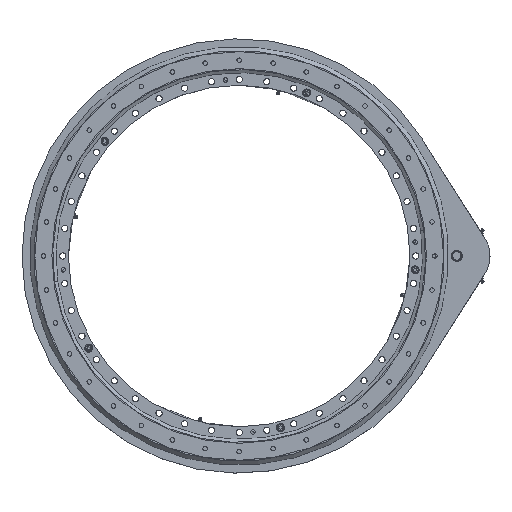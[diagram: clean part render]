
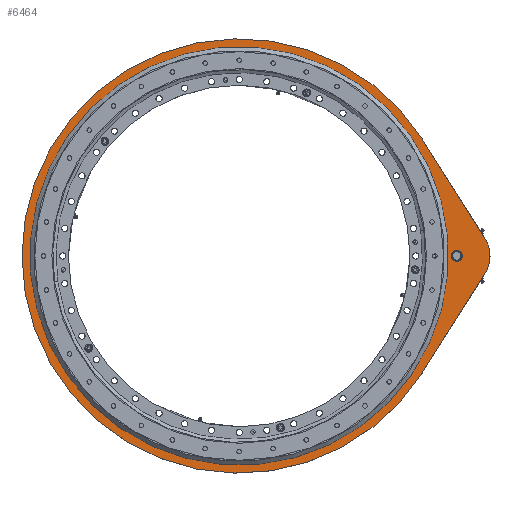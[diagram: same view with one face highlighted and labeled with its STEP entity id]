
A CAD part, top view. The second image highlights one B-rep face of the part: STEP entity #6464.
In plain terms, the highlighted planar face has unit normal (0, 0, 1).
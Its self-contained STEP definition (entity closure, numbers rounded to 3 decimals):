
#211 = CARTESIAN_POINT ( 'NONE',  ( -42.93, 85.521, 797.5 ) ) ;
#457 = CIRCLE ( 'NONE', #10847, 491. ) ;
#465 = FACE_BOUND ( 'NONE', #13850, .T. ) ;
#1192 = CARTESIAN_POINT ( 'NONE',  ( 438.57, 85.521, 797.5 ) ) ;
#1446 = EDGE_LOOP ( 'NONE', ( #23173, #20785, #14064, #2292, #8651 ) ) ;
#1485 = VERTEX_POINT ( 'NONE', #7597 ) ;
#1990 = CARTESIAN_POINT ( 'NONE',  ( 449.07, 85.521, 797.5 ) ) ;
#2074 = ORIENTED_EDGE ( 'NONE', *, *, #20586, .F. ) ;
#2292 = ORIENTED_EDGE ( 'NONE', *, *, #25367, .T. ) ;
#2764 = DIRECTION ( 'NONE',  ( 0., 0., 1. ) ) ;
#2999 = CARTESIAN_POINT ( 'NONE',  ( 512.485, 45.476, 797.5 ) ) ;
#3175 = AXIS2_PLACEMENT_3D ( 'NONE', #27797, #17042, #8562 ) ;
#3456 = CARTESIAN_POINT ( 'NONE',  ( 372.225, -176.639, 797.5 ) ) ;
#4000 = EDGE_CURVE ( 'NONE', #15615, #23674, #17663, .T. ) ;
#4219 = EDGE_LOOP ( 'NONE', ( #13442, #2074 ) ) ;
#5425 = DIRECTION ( 'NONE',  ( 1., 0., 0. ) ) ;
#6464 = ADVANCED_FACE ( 'NONE', ( #465, #17569, #17844 ), #24622, .T. ) ;
#6511 = CARTESIAN_POINT ( 'NONE',  ( 372.225, 347.681, 797.5 ) ) ;
#6593 = AXIS2_PLACEMENT_3D ( 'NONE', #11486, #20161, #15609 ) ;
#7277 = EDGE_CURVE ( 'NONE', #23674, #26113, #23058, .T. ) ;
#7316 = VERTEX_POINT ( 'NONE', #1192 ) ;
#7433 = AXIS2_PLACEMENT_3D ( 'NONE', #10271, #18906, #25393 ) ;
#7597 = CARTESIAN_POINT ( 'NONE',  ( 372.225, 347.681, 797.5 ) ) ;
#7643 = VERTEX_POINT ( 'NONE', #24960 ) ;
#8347 = DIRECTION ( 'NONE',  ( 0., 0., -1. ) ) ;
#8355 = DIRECTION ( 'NONE',  ( -0.534, 0.846, 0. ) ) ;
#8562 = DIRECTION ( 'NONE',  ( -1., 0., 0. ) ) ;
#8651 = ORIENTED_EDGE ( 'NONE', *, *, #10001, .T. ) ;
#8727 = ORIENTED_EDGE ( 'NONE', *, *, #27495, .T. ) ;
#9325 = CARTESIAN_POINT ( 'NONE',  ( 426.07, 85.521, 797.5 ) ) ;
#9538 = AXIS2_PLACEMENT_3D ( 'NONE', #24444, #26877, #22587 ) ;
#10001 = EDGE_CURVE ( 'NONE', #27408, #1485, #25735, .T. ) ;
#10271 = CARTESIAN_POINT ( 'NONE',  ( 449.07, 85.521, 797.5 ) ) ;
#10375 = DIRECTION ( 'NONE',  ( 0.534, 0.846, 0. ) ) ;
#10847 = AXIS2_PLACEMENT_3D ( 'NONE', #15348, #22789, #16601 ) ;
#11079 = VECTOR ( 'NONE', #8355, 1000. ) ;
#11486 = CARTESIAN_POINT ( 'NONE',  ( -42.93, 85.521, 797.5 ) ) ;
#11614 = VECTOR ( 'NONE', #10375, 1000. ) ;
#13442 = ORIENTED_EDGE ( 'NONE', *, *, #19439, .F. ) ;
#13850 = EDGE_LOOP ( 'NONE', ( #8727, #21324 ) ) ;
#14064 = ORIENTED_EDGE ( 'NONE', *, *, #7277, .T. ) ;
#14334 = DIRECTION ( 'NONE',  ( 0., 0., 1. ) ) ;
#15348 = CARTESIAN_POINT ( 'NONE',  ( -42.93, 85.521, 797.5 ) ) ;
#15483 = CARTESIAN_POINT ( 'NONE',  ( -533.93, 85.521, 797.5 ) ) ;
#15596 = CIRCLE ( 'NONE', #7433, 75. ) ;
#15609 = DIRECTION ( 'NONE',  ( 1., 0., 0. ) ) ;
#15615 = VERTEX_POINT ( 'NONE', #15483 ) ;
#15685 = AXIS2_PLACEMENT_3D ( 'NONE', #211, #2764, #23779 ) ;
#16363 = CARTESIAN_POINT ( 'NONE',  ( 512.485, 125.566, 797.5 ) ) ;
#16568 = CARTESIAN_POINT ( 'NONE',  ( -511.93, 85.521, 797.5 ) ) ;
#16601 = DIRECTION ( 'NONE',  ( 1., 0., 0. ) ) ;
#17042 = DIRECTION ( 'NONE',  ( 0., 0., -1. ) ) ;
#17143 = AXIS2_PLACEMENT_3D ( 'NONE', #27350, #14334, #5425 ) ;
#17454 = CIRCLE ( 'NONE', #15685, 469. ) ;
#17569 = FACE_OUTER_BOUND ( 'NONE', #1446, .T. ) ;
#17582 = CIRCLE ( 'NONE', #17143, 469. ) ;
#17663 = CIRCLE ( 'NONE', #9538, 491. ) ;
#17844 = FACE_BOUND ( 'NONE', #4219, .T. ) ;
#18032 = AXIS2_PLACEMENT_3D ( 'NONE', #1990, #8347, #23304 ) ;
#18906 = DIRECTION ( 'NONE',  ( 0., 0., 1. ) ) ;
#19439 = EDGE_CURVE ( 'NONE', #20953, #28093, #17582, .T. ) ;
#20161 = DIRECTION ( 'NONE',  ( 0., 0., 1. ) ) ;
#20586 = EDGE_CURVE ( 'NONE', #28093, #20953, #17454, .T. ) ;
#20785 = ORIENTED_EDGE ( 'NONE', *, *, #4000, .T. ) ;
#20953 = VERTEX_POINT ( 'NONE', #9325 ) ;
#21324 = ORIENTED_EDGE ( 'NONE', *, *, #27273, .T. ) ;
#22587 = DIRECTION ( 'NONE',  ( 1., 0., 0. ) ) ;
#22668 = CIRCLE ( 'NONE', #3175, 10.5 ) ;
#22789 = DIRECTION ( 'NONE',  ( 0., 0., 1. ) ) ;
#23058 = LINE ( 'NONE', #3456, #11614 ) ;
#23173 = ORIENTED_EDGE ( 'NONE', *, *, #27781, .T. ) ;
#23304 = DIRECTION ( 'NONE',  ( -1., 0., 0. ) ) ;
#23674 = VERTEX_POINT ( 'NONE', #25922 ) ;
#23779 = DIRECTION ( 'NONE',  ( 1., 0., 0. ) ) ;
#24444 = CARTESIAN_POINT ( 'NONE',  ( -42.93, 85.521, 797.5 ) ) ;
#24622 = PLANE ( 'NONE',  #6593 ) ;
#24960 = CARTESIAN_POINT ( 'NONE',  ( 459.57, 85.521, 797.5 ) ) ;
#25367 = EDGE_CURVE ( 'NONE', #26113, #27408, #15596, .T. ) ;
#25393 = DIRECTION ( 'NONE',  ( 1., 0., 0. ) ) ;
#25735 = LINE ( 'NONE', #6511, #11079 ) ;
#25906 = CIRCLE ( 'NONE', #18032, 10.5 ) ;
#25922 = CARTESIAN_POINT ( 'NONE',  ( 372.225, -176.639, 797.5 ) ) ;
#26113 = VERTEX_POINT ( 'NONE', #2999 ) ;
#26877 = DIRECTION ( 'NONE',  ( 0., 0., 1. ) ) ;
#27273 = EDGE_CURVE ( 'NONE', #7643, #7316, #25906, .T. ) ;
#27350 = CARTESIAN_POINT ( 'NONE',  ( -42.93, 85.521, 797.5 ) ) ;
#27408 = VERTEX_POINT ( 'NONE', #16363 ) ;
#27495 = EDGE_CURVE ( 'NONE', #7316, #7643, #22668, .T. ) ;
#27781 = EDGE_CURVE ( 'NONE', #1485, #15615, #457, .T. ) ;
#27797 = CARTESIAN_POINT ( 'NONE',  ( 449.07, 85.521, 797.5 ) ) ;
#28093 = VERTEX_POINT ( 'NONE', #16568 ) ;
